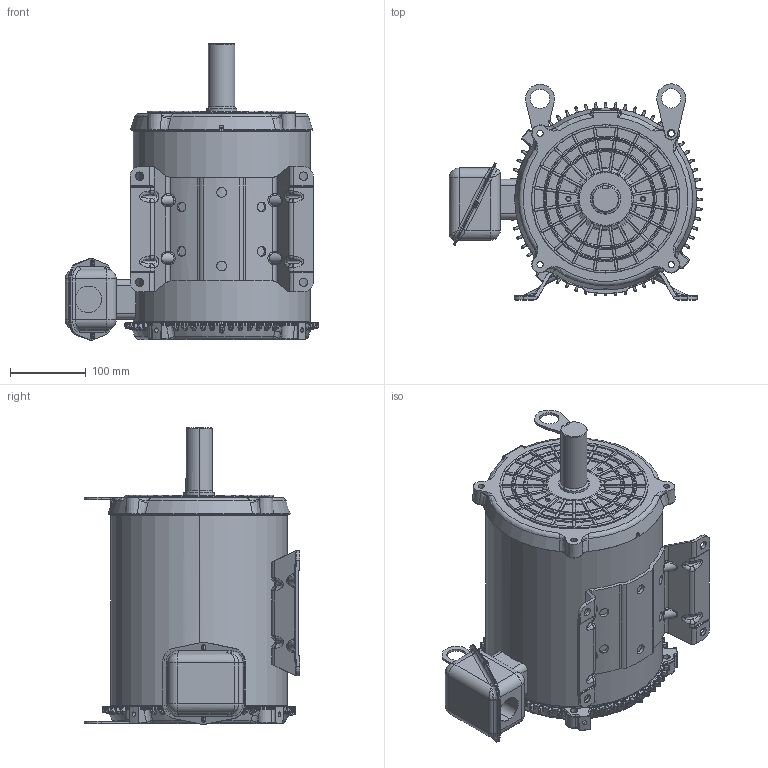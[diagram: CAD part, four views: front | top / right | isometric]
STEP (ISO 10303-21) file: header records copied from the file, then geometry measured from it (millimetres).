
FILE_DESCRIPTION((''),'2;1');
FILE_NAME('210T_FSN_10250_ASM','2015-07-16T',('NMC2342'),('Nidec Motor Corporation'),'PRO/ENGINEER BY PARAMETRIC TECHNOLOGY CORPORATION, 2013150','PRO/ENGINEER BY PARAMETRIC TECHNOLOGY CORPORATION, 2013150','');
FILE_SCHEMA(('CONFIG_CONTROL_DESIGN'));
Length unit declared in the file: inch
Products named in the file (16): 0394523-FR_AF0; 0391894-BKT_AF1; 0298010_AF1; 0626631; 0899707_ASM; 0903636-BKT_AF0; 0298013_AF2; 0899706_ASM; 0345787; 0494494; 0951821; 0390920; 0390408; 0390417; 0376890; 210T_FSN_10250_ASM
Assembly tree (16 placements, depth 3):
  210T_FSN_10250_ASM
    0394523-FR_AF0
    0899707_ASM
      0391894-BKT_AF1
      0298010_AF1
      0626631
    0899706_ASM
      0903636-BKT_AF0
      0298013_AF2
    0345787
    0494494
    0951821
    0390920
    0390408
    0390417
    0376890  x2
Bounding box: 333.67 x 284.18 x 390.84 mm (x, y, z)
Volume: 2156041.9 mm3; surface area: 941808.2 mm2
Topology: 16 solids, 16 shells, 3588 faces, 8746 edges, 5163 vertices
Faces by surface type: bspline 1298, cylinder 757, plane 675, torus 404, cone 400, sphere 54
Entity records: 157716 total; most frequent: CARTESIAN_POINT 83545, ORIENTED_EDGE 17310, DIRECTION 13148, EDGE_CURVE 8655, AXIS2_PLACEMENT_3D 5520, VERTEX_POINT 5147, EDGE_LOOP 3712, FACE_OUTER_BOUND 3578
